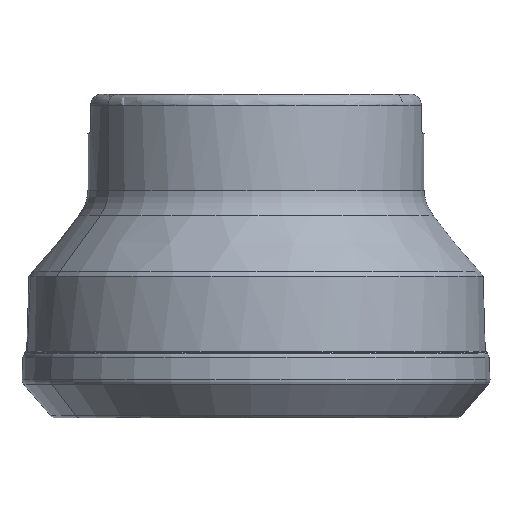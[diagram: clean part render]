
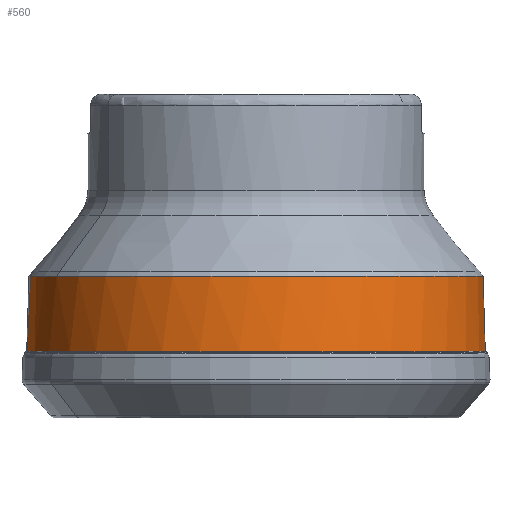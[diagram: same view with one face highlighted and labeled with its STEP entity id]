
A CAD part, front view. The second image highlights one B-rep face of the part: STEP entity #560.
In plain terms, the highlighted face is a revolution surface.
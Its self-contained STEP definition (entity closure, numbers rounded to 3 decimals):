
#485=AXIS2_PLACEMENT_3D('Circle Axis2P3D',#483,#484,$) ;
#537=AXIS2_PLACEMENT_3D('Circle Axis2P3D',#535,#536,$) ;
#544=AXIS2_PLACEMENT_3D('Circle Axis2P3D',#542,#543,$) ;
#480=CARTESIAN_POINT('Vertex',(35.33,3.65,-39.782)) ;
#483=CARTESIAN_POINT('Axis2P3D Location',(0.,0.,-39.782)) ;
#487=CARTESIAN_POINT('Vertex',(-35.33,-3.65,-39.782)) ;
#521=CARTESIAN_POINT('Line Origine',(-32.765,13.173,-33.945)) ;
#525=CARTESIAN_POINT('Axis1P Location',(0.,0.,-48.984)) ;
#530=CARTESIAN_POINT('Control Point',(35.33,3.65,-39.782)) ;
#531=CARTESIAN_POINT('Control Point',(34.809,4.646,-28.109)) ;
#532=CARTESIAN_POINT('Vertex',(34.809,4.646,-28.109)) ;
#535=CARTESIAN_POINT('Axis2P3D Location',(0.,0.,-28.109)) ;
#539=CARTESIAN_POINT('Vertex',(-30.818,-16.836,-28.109)) ;
#542=CARTESIAN_POINT('Axis2P3D Location',(0.,0.,-28.109)) ;
#546=CARTESIAN_POINT('Vertex',(-34.809,-4.646,-28.109)) ;
#550=CARTESIAN_POINT('Control Point',(-35.33,-3.65,-39.782)) ;
#551=CARTESIAN_POINT('Control Point',(-34.809,-4.646,-28.109)) ;
#484=DIRECTION('Axis2P3D Direction',(0.,0.,1.)) ;
#522=DIRECTION('Vector Direction',(-0.002,-0.096,0.995)) ;
#526=DIRECTION('Axis1P Direction',(0.,0.,1.)) ;
#536=DIRECTION('Axis2P3D Direction',(0.,0.,1.)) ;
#543=DIRECTION('Axis2P3D Direction',(0.,0.,1.)) ;
#523=VECTOR('Line Direction',#522,1.) ;
#527=AXIS1_PLACEMENT('Revolution Surface Axis1P',#525,#526) ;
#554=ORIENTED_EDGE('',*,*,#534,.T.) ;
#555=ORIENTED_EDGE('',*,*,#541,.F.) ;
#556=ORIENTED_EDGE('',*,*,#548,.F.) ;
#557=ORIENTED_EDGE('',*,*,#552,.F.) ;
#558=ORIENTED_EDGE('',*,*,#489,.T.) ;
#560=ADVANCED_FACE('NOCUT',(#559),#528,.T.) ;
#529=B_SPLINE_CURVE_WITH_KNOTS('',1,(#530,#531),.UNSPECIFIED.,.F.,.U.,(2,2),(-3.915,7.812),.UNSPECIFIED.) ;
#549=B_SPLINE_CURVE_WITH_KNOTS('',1,(#550,#551),.UNSPECIFIED.,.F.,.U.,(2,2),(-3.915,7.812),.UNSPECIFIED.) ;
#486=CIRCLE('generated circle',#485,35.518) ;
#538=CIRCLE('generated circle',#537,35.117) ;
#545=CIRCLE('generated circle',#544,35.117) ;
#489=EDGE_CURVE('',#488,#481,#486,.T.) ;
#534=EDGE_CURVE('',#481,#533,#529,.T.) ;
#541=EDGE_CURVE('',#540,#533,#538,.T.) ;
#548=EDGE_CURVE('',#547,#540,#545,.T.) ;
#552=EDGE_CURVE('',#488,#547,#549,.T.) ;
#553=EDGE_LOOP('',(#554,#555,#556,#557,#558)) ;
#559=FACE_OUTER_BOUND('',#553,.T.) ;
#524=LINE('Line',#521,#523) ;
#528=SURFACE_OF_REVOLUTION('Surface of Revolution',#524,#527) ;
#481=VERTEX_POINT('',#480) ;
#488=VERTEX_POINT('',#487) ;
#533=VERTEX_POINT('',#532) ;
#540=VERTEX_POINT('',#539) ;
#547=VERTEX_POINT('',#546) ;
